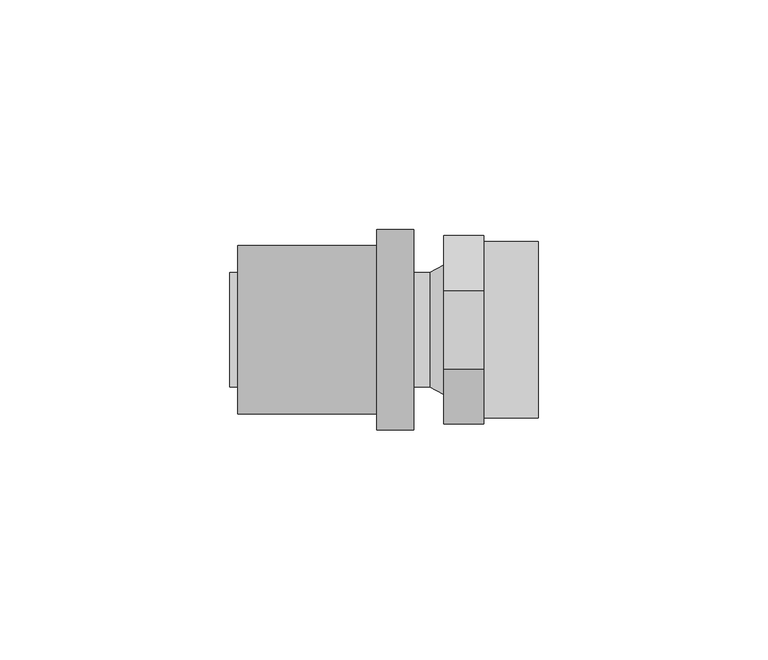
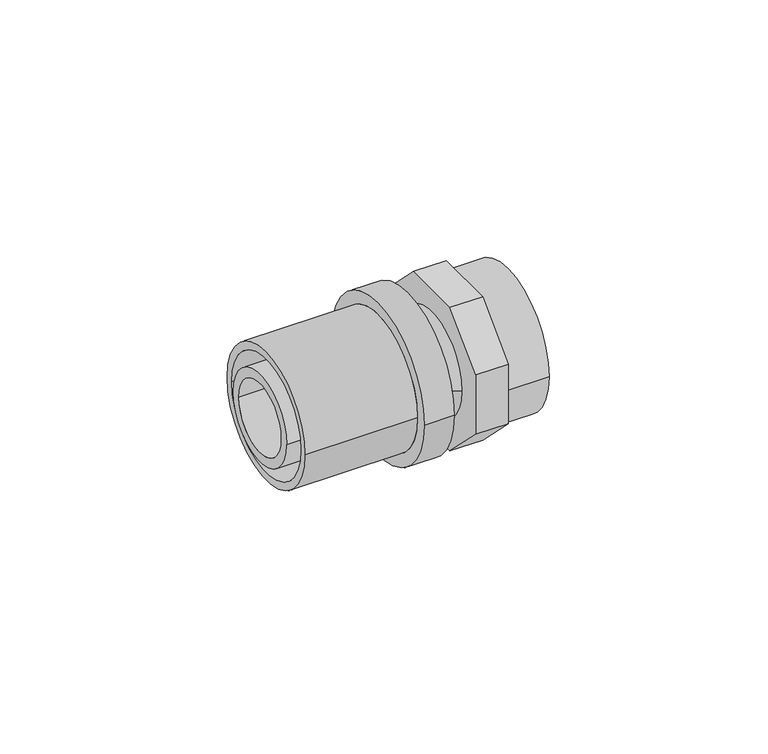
"""IFC4 building model written with IfcOpenShell, lengths in millimetres: pipe fitting geometry, FASTLOC_Adapter_EX+, with internal thread : FSL A internal AT."""

from ifc_helpers import new_model, si_unit, point, frame, origin, origin_2d, place, context, project, spatial, polyline, circle_curve, trimmed, segment, composite_curve, outline, extrude, source, transform, mapped, element, save
from ifc_brep_helpers import plane_surface, cylinder_surface, revolved_surface, advanced_brep


def pipe_fitting_85239123(model_context):
    return source(origin(), model_context, "Body", "SolidModel", [
        advanced_brep(
        [(-14.5, -21.8, 0.0), (-14.5, 21.8, 0.0), (-6.5, 21.8, 0.0), (-6.5, -21.8, 0.0), (-44.8, -18.35, 0.0), (-44.8, 18.35, 0.0), (-14.5, 18.35, 0.0), (-14.5, -18.35, 0.0), (-6.5, -16.2, 0.0), (-6.5, 16.2, 0.0), (-44.8, 16.2, 0.0), (-44.8, -16.2, 0.0)],
        [
            (0, 1, circle_curve(frame((-14.5, 0.0, 0.0), z_axis=(1.0, 0.0, 0.0), x_axis=(0.0, 1.0, 0.0)), 21.8)),
            (1, 2),
            (2, 3, circle_curve(frame((-6.5, 0.0, 0.0), z_axis=(-1.0, 0.0, 0.0), x_axis=(0.0, 1.0, 0.0)), 21.8)),
            (3, 0),
            (4, 5, circle_curve(frame((-44.8, 0.0, 0.0), z_axis=(1.0, 0.0, 0.0), x_axis=(0.0, 1.0, 0.0)), 18.35)),
            (5, 6),
            (6, 7, circle_curve(frame((-14.5, 0.0, 0.0), z_axis=(-1.0, 0.0, 0.0), x_axis=(0.0, 1.0, 0.0)), 18.35)),
            (7, 4),
            (8, 9, circle_curve(frame((-6.5, 0.0, 0.0), z_axis=(1.0, 0.0, 0.0), x_axis=(0.0, 1.0, 0.0)), 16.2)),
            (9, 10),
            (10, 11, circle_curve(frame((-44.8, 0.0, 0.0), z_axis=(-1.0, 0.0, 0.0), x_axis=(0.0, 1.0, 0.0)), 16.2)),
            (11, 8),
            (1, 0, circle_curve(frame((-14.5, 0.0, 0.0), z_axis=(1.0, 0.0, 0.0), x_axis=(0.0, -1.0, 0.0)), 21.8)),
            (3, 2, circle_curve(frame((-6.5, 0.0, 0.0), z_axis=(-1.0, 0.0, 0.0), x_axis=(0.0, -1.0, 0.0)), 21.8)),
            (6, 7, circle_curve(frame((-14.5, 0.0, 0.0), z_axis=(1.0, 0.0, 0.0), x_axis=(0.0, -1.0, 0.0)), 18.35)),
            (5, 4, circle_curve(frame((-44.8, 0.0, 0.0), z_axis=(1.0, 0.0, 0.0), x_axis=(0.0, -1.0, 0.0)), 18.35)),
            (10, 11, circle_curve(frame((-44.8, 0.0, 0.0), z_axis=(1.0, 0.0, 0.0), x_axis=(0.0, -1.0, 0.0)), 16.2)),
            (9, 8, circle_curve(frame((-6.5, 0.0, 0.0), z_axis=(1.0, 0.0, 0.0), x_axis=(0.0, -1.0, 0.0)), 16.2)),
        ],
        [
            cylinder_surface(frame((-6.5, 0.0, 0.0), z_axis=(-1.0, 0.0, 0.0), x_axis=(0.0, 1.0, 0.0)), 21.8),
            cylinder_surface(frame((-6.5, 0.0, 0.0), z_axis=(-1.0, 0.0, 0.0), x_axis=(0.0, 1.0, 0.0)), 18.35),
            revolved_surface(polyline([(-44.8, 16.2, 0.0), (-6.5, 16.2, 0.0)]), (-6.5, 0.0, 0.0), (-1.0, 0.0, 0.0)),
            cylinder_surface(frame((-6.5, 0.0, 0.0), z_axis=(-1.0, 0.0, 0.0), x_axis=(0.0, -1.0, 0.0)), 21.8),
            plane_surface(frame((-14.5, 0.0, 0.0), z_axis=(-1.0, 0.0, 0.0), x_axis=(0.0, -1.0, 0.0))),
            cylinder_surface(frame((-6.5, 0.0, 0.0), z_axis=(-1.0, 0.0, 0.0), x_axis=(0.0, -1.0, 0.0)), 18.35),
            plane_surface(frame((-44.8, 0.0, 0.0), z_axis=(-1.0, 0.0, 0.0), x_axis=(0.0, -1.0, 0.0))),
            revolved_surface(polyline([(-44.8, -16.2, 0.0), (-6.5, -16.2, 0.0)]), (-6.5, 0.0, 0.0), (-1.0, 0.0, 0.0)),
            plane_surface(frame((-6.5, 0.0, 0.0), z_axis=(1.0, 0.0, 0.0), x_axis=(0.0, -1.0, 0.0))),
        ],
        [
            (0, [[1, 2, 3, 4]]),
            (1, [[5, 6, 7, 8]]),
            (2, [[9, 10, 11, 12]]),
            (3, [[13, -4, 14, -2]]),
            (4, [[-13, -1], [15, -7]]),
            (5, [[16, -8, -15, -6]]),
            (6, [[-16, -5], [17, -11]]),
            (7, [[18, -12, -17, -10]]),
            (8, [[-14, -3], [-18, -9]]),
        ],
    ),
        advanced_brep(
        [(-14.5, 12.5, 0.0), (-14.5, -12.5, 0.0), (-46.5, -12.5, 0.0), (-46.5, 12.5, 0.0), (-11.5, 14.1, 0.0), (-11.5, -14.1, 0.0), (-14.5, -14.1, 0.0), (-14.5, 14.1, 0.0), (-3.0, 12.5, 0.0), (-3.0, -12.5, 0.0), (-11.5, -12.5, 0.0), (-11.5, 12.5, 0.0), (0.0, 14.1, 0.0), (0.0, -14.1, 0.0), (-46.5, 9.85, 0.0), (-46.5, -9.85, 0.0), (0.0, -9.85, 0.0), (0.0, 9.85, 0.0)],
        [
            (0, 1, circle_curve(frame((-14.5, 0.0, 0.0), z_axis=(-1.0, 0.0, 0.0), x_axis=(0.0, -1.0, 0.0)), 12.5)),
            (1, 2),
            (2, 3, circle_curve(frame((-46.5, 0.0, 0.0), z_axis=(1.0, 0.0, 0.0), x_axis=(0.0, -1.0, 0.0)), 12.5)),
            (3, 0),
            (4, 5, circle_curve(frame((-11.5, 0.0, 0.0), z_axis=(-1.0, 0.0, 0.0), x_axis=(0.0, -1.0, 0.0)), 14.1)),
            (5, 6),
            (6, 7, circle_curve(frame((-14.5, 0.0, 0.0), z_axis=(1.0, 0.0, 0.0), x_axis=(0.0, -1.0, 0.0)), 14.1)),
            (7, 4),
            (8, 9, circle_curve(frame((-3.0, 0.0, 0.0), z_axis=(-1.0, 0.0, 0.0), x_axis=(0.0, -1.0, 0.0)), 12.5)),
            (9, 10),
            (10, 11, circle_curve(frame((-11.5, 0.0, 0.0), z_axis=(1.0, 0.0, 0.0), x_axis=(0.0, -1.0, 0.0)), 12.5)),
            (11, 8),
            (12, 13, circle_curve(frame((0.0, 0.0, 0.0), z_axis=(-1.0, 0.0, 0.0), x_axis=(0.0, -1.0, 0.0)), 14.1)),
            (13, 9),
            (8, 12),
            (14, 15, circle_curve(frame((-46.5, 0.0, 0.0), z_axis=(-1.0, 0.0, 0.0), x_axis=(0.0, -1.0, 0.0)), 9.85)),
            (15, 16),
            (16, 17, circle_curve(frame((0.0, 0.0, 0.0), z_axis=(1.0, 0.0, 0.0), x_axis=(0.0, -1.0, 0.0)), 9.85)),
            (17, 14),
            (2, 3, circle_curve(frame((-46.5, 0.0, 0.0), z_axis=(-1.0, 0.0, 0.0), x_axis=(0.0, 1.0, 0.0)), 12.5)),
            (14, 15, circle_curve(frame((-46.5, 0.0, 0.0), z_axis=(1.0, 0.0, 0.0), x_axis=(0.0, 1.0, 0.0)), 9.85)),
            (1, 0, circle_curve(frame((-14.5, 0.0, 0.0), z_axis=(-1.0, 0.0, 0.0), x_axis=(0.0, 1.0, 0.0)), 12.5)),
            (6, 7, circle_curve(frame((-14.5, 0.0, 0.0), z_axis=(-1.0, 0.0, 0.0), x_axis=(0.0, 1.0, 0.0)), 14.1)),
            (5, 4, circle_curve(frame((-11.5, 0.0, 0.0), z_axis=(-1.0, 0.0, 0.0), x_axis=(0.0, 1.0, 0.0)), 14.1)),
            (10, 11, circle_curve(frame((-11.5, 0.0, 0.0), z_axis=(-1.0, 0.0, 0.0), x_axis=(0.0, 1.0, 0.0)), 12.5)),
            (9, 8, circle_curve(frame((-3.0, 0.0, 0.0), z_axis=(-1.0, 0.0, 0.0), x_axis=(0.0, 1.0, 0.0)), 12.5)),
            (13, 12, circle_curve(frame((0.0, 0.0, 0.0), z_axis=(-1.0, 0.0, 0.0), x_axis=(0.0, 1.0, 0.0)), 14.1)),
            (16, 17, circle_curve(frame((0.0, 0.0, 0.0), z_axis=(-1.0, 0.0, 0.0), x_axis=(0.0, 1.0, 0.0)), 9.85)),
        ],
        [
            cylinder_surface(frame((0.0, 0.0, 0.0), z_axis=(1.0, 0.0, 0.0), x_axis=(0.0, -1.0, 0.0)), 12.5),
            cylinder_surface(frame((0.0, 0.0, 0.0), z_axis=(1.0, 0.0, 0.0), x_axis=(0.0, -1.0, 0.0)), 14.1),
            revolved_surface(polyline([(-3.0, -12.5, 0.0), (0.0, -14.1, 0.0)]), (0.0, 0.0, 0.0), (1.0, 0.0, 0.0)),
            revolved_surface(polyline([(0.0, -9.85, 0.0), (-46.5, -9.85, 0.0)]), (0.0, 0.0, 0.0), (1.0, 0.0, 0.0)),
            plane_surface(frame((-46.5, 0.0, 0.0), z_axis=(-1.0, 0.0, 0.0), x_axis=(0.0, 1.0, 0.0))),
            cylinder_surface(frame((0.0, 0.0, 0.0), z_axis=(1.0, 0.0, 0.0), x_axis=(0.0, 1.0, 0.0)), 12.5),
            plane_surface(frame((-14.5, 0.0, 0.0), z_axis=(-1.0, 0.0, 0.0), x_axis=(0.0, 1.0, 0.0))),
            cylinder_surface(frame((0.0, 0.0, 0.0), z_axis=(1.0, 0.0, 0.0), x_axis=(0.0, 1.0, 0.0)), 14.1),
            plane_surface(frame((-11.5, 0.0, 0.0), z_axis=(1.0, 0.0, 0.0), x_axis=(0.0, 1.0, 0.0))),
            revolved_surface(polyline([(-3.0, 12.5, 0.0), (0.0, 14.1, 0.0)]), (0.0, 0.0, 0.0), (1.0, 0.0, 0.0)),
            plane_surface(frame((0.0, 0.0, 0.0), z_axis=(1.0, 0.0, 0.0), x_axis=(0.0, 1.0, 0.0))),
            revolved_surface(polyline([(0.0, 9.85, 0.0), (-46.5, 9.85, 0.0)]), (0.0, 0.0, 0.0), (1.0, 0.0, 0.0)),
        ],
        [
            (0, [[1, 2, 3, 4]]),
            (1, [[5, 6, 7, 8]]),
            (0, [[9, 10, 11, 12]]),
            (2, [[13, 14, -9, 15]]),
            (3, [[16, 17, 18, 19]]),
            (4, [[20, -3], [21, -16]]),
            (5, [[22, -4, -20, -2]]),
            (6, [[23, -7], [-22, -1]]),
            (7, [[24, -8, -23, -6]]),
            (8, [[-24, -5], [25, -11]]),
            (5, [[26, -12, -25, -10]]),
            (9, [[27, -15, -26, -14]]),
            (10, [[-27, -13], [28, -18]]),
            (11, [[-21, -19, -28, -17]]),
        ],
    ),
        extrude(outline(polyline([(-8.491378, -20.5), (-20.5, -8.491378), (-20.5, 8.491378), (-8.491378, 20.5), (8.491378, 20.5), (20.5, 8.491378), (20.5, -8.491378), (8.491378, -20.5), (-8.491378, -20.5)]), holes=[composite_curve([segment(trimmed(circle_curve(origin_2d(), 9.85), [point((-9.85, 0.0))], [point((9.85, 0.0))], True, "CARTESIAN"), True, "CONTINUOUS"), segment(trimmed(circle_curve(origin_2d(), 9.85), [point((9.85, 0.0))], [point((-9.85, 0.0))], True, "CARTESIAN"), True, "CONTINUOUS")], self_intersect=False)]), frame((0.0, 0.0, 0.0), z_axis=(1.0, 0.0, 0.0), x_axis=(0.0, 1.0, 0.0)), (0.0, 0.0, 1.0), 8.8),
        extrude(outline(composite_curve([segment(trimmed(circle_curve(origin_2d(), 19.25), [point((-19.25, 0.0))], [point((19.25, 0.0))], False, "CARTESIAN"), True, "CONTINUOUS"), segment(trimmed(circle_curve(origin_2d(), 19.25), [point((19.25, 0.0))], [point((-19.25, 0.0))], False, "CARTESIAN"), True, "CONTINUOUS")], self_intersect=False), holes=[composite_curve([segment(trimmed(circle_curve(origin_2d(), 15.2), [point((-15.2, 0.0))], [point((15.2, 0.0))], True, "CARTESIAN"), True, "CONTINUOUS"), segment(trimmed(circle_curve(origin_2d(), 15.2), [point((15.2, 0.0))], [point((-15.2, 0.0))], True, "CARTESIAN"), True, "CONTINUOUS")], self_intersect=False)]), frame((8.8, 0.0, 0.0), z_axis=(1.0, 0.0, 0.0), x_axis=(0.0, 1.0, 0.0)), (0.0, 0.0, 1.0), 11.8),
    ])


if __name__ == "__main__":
    model = new_model("IFC4")
    model_context = context("Model", 3, world=origin())
    ifc_project = project(units=[si_unit("LENGTHUNIT", "METRE", prefix="MILLI")], contexts=[model_context])
    site = spatial("IfcSite", under=ifc_project)
    building = spatial("IfcBuilding", under=site)
    placement = place(None, origin())
    pipe_fitting_shape = pipe_fitting_85239123(model_context)
    element("IfcPipeFitting", 1, ObjectType="FASTLOC_Adapter_EX+, with internal thread : FSL A internal AT", at=placement, inside=building, context=model_context, shape_type="MappedRepresentation", body=[
        mapped(pipe_fitting_shape, transform((0.0, 0.0, 0.0), x_axis=(1.0, 0.0, 0.0), y_axis=(0.0, 1.0, 0.0), z_axis=(0.0, 0.0, 1.0))),
    ])
    save(model, "model.ifc")
